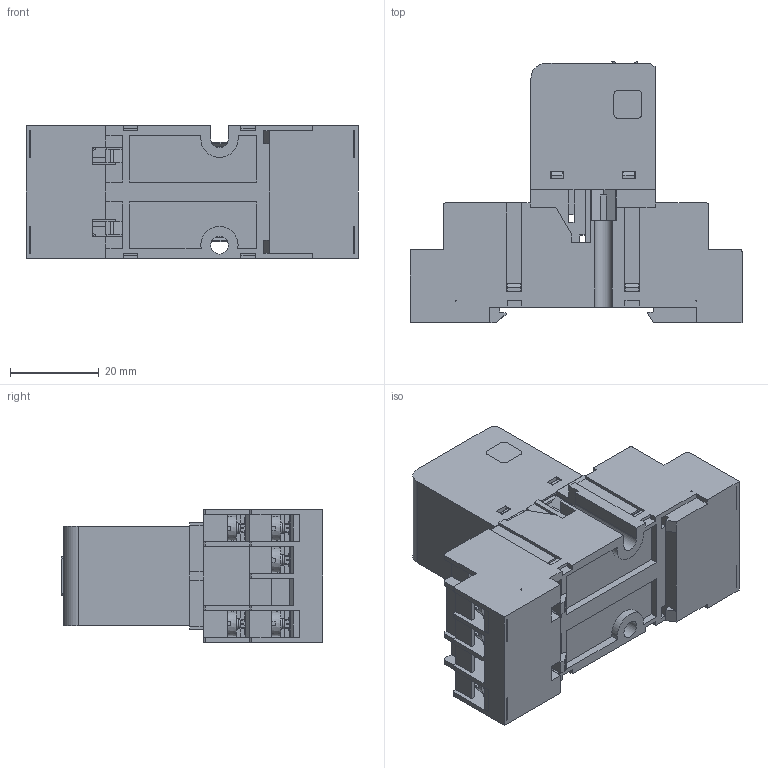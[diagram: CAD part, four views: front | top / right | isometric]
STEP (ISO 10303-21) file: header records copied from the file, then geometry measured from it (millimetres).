
FILE_DESCRIPTION(('STEP AP214'), '1');
FILE_NAME('Ðåëå ìîäóëüíîå ÐÏ30Õ-003 (áåç ìîäóëÿ) (íà ïîêàç)', '', ('UNSPECIFIED'), ('UNSPECIFIED'), 'ASCON STEP Converter 1.6', 'ASCON Math Kernel', '');
FILE_SCHEMA(('AUTOMOTIVE_DESIGN { 1 0 10303 214 3 1 1}'));
Length unit declared in the file: millimetre
Bounding box: 74.9 x 59 x 30 mm (x, y, z)
Volume: 19978.1 mm3; surface area: 35475.5 mm2
Topology: 15 solids, 15 shells, 3334 faces, 9449 edges, 6062 vertices
Faces by surface type: plane 2472, cylinder 520, torus 154, bspline 110, cone 78
Full cylindrical faces by diameter (mm): 0.6 x2, 2.3 x11, 3 x23, 3.54 x11, 4 x1, 4.5 x14
Entity records: 153277 total; most frequent: CARTESIAN_POINT 42628, ORIENTED_EDGE 18662, DIRECTION 15515, EDGE_CURVE 9331, LINE 6657, VECTOR 6657, VERTEX_POINT 6062, AXIS2_PLACEMENT_3D 4429
